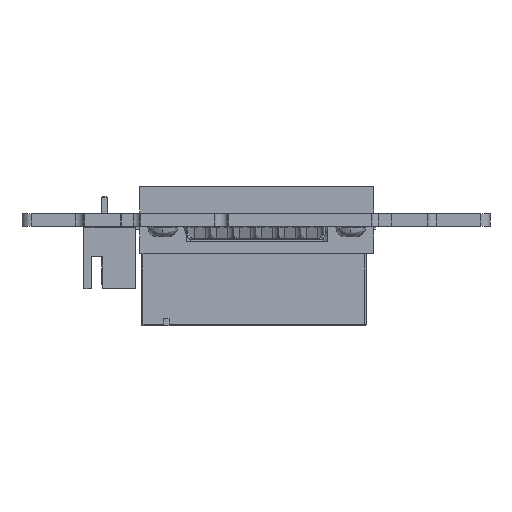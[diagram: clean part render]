
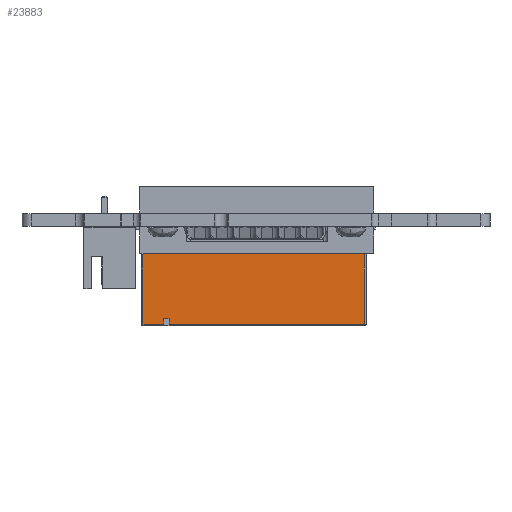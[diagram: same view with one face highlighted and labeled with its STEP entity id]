
A CAD part, front view. The second image highlights one B-rep face of the part: STEP entity #23883.
In plain terms, the highlighted planar face has unit normal (0, -1, 0) as drawn and (-1, 0, 0) by its records, which use the part's own axes.
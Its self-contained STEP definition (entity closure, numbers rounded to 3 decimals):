
#9178 = VERTEX_POINT('',#9179);
#9179 = CARTESIAN_POINT('',(-11.456,-4.524,10.6));
#9185 = EDGE_CURVE('',#9178,#9186,#9188,.T.);
#9186 = VERTEX_POINT('',#9187);
#9187 = CARTESIAN_POINT('',(-11.456,-4.524,-10.6));
#9188 = LINE('',#9189,#9190);
#9189 = CARTESIAN_POINT('',(-11.456,-4.524,12.5));
#9190 = VECTOR('',#9191,1.);
#9191 = DIRECTION('',(0.,0.,-1.));
#23104 = VERTEX_POINT('',#23105);
#23105 = CARTESIAN_POINT('',(-11.456,5.226,-12.3));
#23112 = EDGE_CURVE('',#23113,#23104,#23115,.T.);
#23113 = VERTEX_POINT('',#23114);
#23114 = CARTESIAN_POINT('',(-11.456,5.226,9.4));
#23115 = LINE('',#23116,#23117);
#23116 = CARTESIAN_POINT('',(-11.456,5.226,12.5));
#23117 = VECTOR('',#23118,1.);
#23118 = DIRECTION('',(0.,0.,-1.));
#23854 = EDGE_CURVE('',#23855,#23857,#23859,.T.);
#23855 = VERTEX_POINT('',#23856);
#23856 = CARTESIAN_POINT('',(-11.456,5.226,12.3));
#23857 = VERTEX_POINT('',#23858);
#23858 = CARTESIAN_POINT('',(-11.456,5.226,10.));
#23859 = LINE('',#23860,#23861);
#23860 = CARTESIAN_POINT('',(-11.456,5.226,12.5));
#23861 = VECTOR('',#23862,1.);
#23862 = DIRECTION('',(0.,0.,-1.));
#23883 = ADVANCED_FACE('',(#23884),#23955,.F.);
#23884 = FACE_BOUND('',#23885,.T.);
#23885 = EDGE_LOOP('',(#23886,#23896,#23902,#23903,#23911,#23919,#23925,
    #23926,#23934,#23942,#23948,#23949));
#23886 = ORIENTED_EDGE('',*,*,#23887,.F.);
#23887 = EDGE_CURVE('',#23888,#23890,#23892,.T.);
#23888 = VERTEX_POINT('',#23889);
#23889 = CARTESIAN_POINT('',(-11.456,-5.574,12.3));
#23890 = VERTEX_POINT('',#23891);
#23891 = CARTESIAN_POINT('',(-11.456,-5.574,10.6));
#23892 = LINE('',#23893,#23894);
#23893 = CARTESIAN_POINT('',(-11.456,-5.574,12.5));
#23894 = VECTOR('',#23895,1.);
#23895 = DIRECTION('',(0.,0.,-1.));
#23896 = ORIENTED_EDGE('',*,*,#23897,.T.);
#23897 = EDGE_CURVE('',#23888,#23855,#23898,.T.);
#23898 = LINE('',#23899,#23900);
#23899 = CARTESIAN_POINT('',(-11.456,-4.524,12.3));
#23900 = VECTOR('',#23901,1.);
#23901 = DIRECTION('',(0.,1.,0.));
#23902 = ORIENTED_EDGE('',*,*,#23854,.T.);
#23903 = ORIENTED_EDGE('',*,*,#23904,.F.);
#23904 = EDGE_CURVE('',#23905,#23857,#23907,.T.);
#23905 = VERTEX_POINT('',#23906);
#23906 = CARTESIAN_POINT('',(-11.456,4.626,10.));
#23907 = LINE('',#23908,#23909);
#23908 = CARTESIAN_POINT('',(-11.456,4.626,10.));
#23909 = VECTOR('',#23910,1.);
#23910 = DIRECTION('',(0.,1.,0.));
#23911 = ORIENTED_EDGE('',*,*,#23912,.F.);
#23912 = EDGE_CURVE('',#23913,#23905,#23915,.T.);
#23913 = VERTEX_POINT('',#23914);
#23914 = CARTESIAN_POINT('',(-11.456,4.626,9.4));
#23915 = LINE('',#23916,#23917);
#23916 = CARTESIAN_POINT('',(-11.456,4.626,9.4));
#23917 = VECTOR('',#23918,1.);
#23918 = DIRECTION('',(0.,0.,1.));
#23919 = ORIENTED_EDGE('',*,*,#23920,.T.);
#23920 = EDGE_CURVE('',#23913,#23113,#23921,.T.);
#23921 = LINE('',#23922,#23923);
#23922 = CARTESIAN_POINT('',(-11.456,4.626,9.4));
#23923 = VECTOR('',#23924,1.);
#23924 = DIRECTION('',(0.,1.,0.));
#23925 = ORIENTED_EDGE('',*,*,#23112,.T.);
#23926 = ORIENTED_EDGE('',*,*,#23927,.T.);
#23927 = EDGE_CURVE('',#23104,#23928,#23930,.T.);
#23928 = VERTEX_POINT('',#23929);
#23929 = CARTESIAN_POINT('',(-11.456,-5.574,-12.3));
#23930 = LINE('',#23931,#23932);
#23931 = CARTESIAN_POINT('',(-11.456,-5.574,-12.3));
#23932 = VECTOR('',#23933,1.);
#23933 = DIRECTION('',(0.,-1.,0.));
#23934 = ORIENTED_EDGE('',*,*,#23935,.F.);
#23935 = EDGE_CURVE('',#23936,#23928,#23938,.T.);
#23936 = VERTEX_POINT('',#23937);
#23937 = CARTESIAN_POINT('',(-11.456,-5.574,-10.6));
#23938 = LINE('',#23939,#23940);
#23939 = CARTESIAN_POINT('',(-11.456,-5.574,-12.5));
#23940 = VECTOR('',#23941,1.);
#23941 = DIRECTION('',(0.,0.,-1.));
#23942 = ORIENTED_EDGE('',*,*,#23943,.T.);
#23943 = EDGE_CURVE('',#23936,#9186,#23944,.T.);
#23944 = LINE('',#23945,#23946);
#23945 = CARTESIAN_POINT('',(-11.456,-5.574,-10.6));
#23946 = VECTOR('',#23947,1.);
#23947 = DIRECTION('',(0.,1.,0.));
#23948 = ORIENTED_EDGE('',*,*,#9185,.F.);
#23949 = ORIENTED_EDGE('',*,*,#23950,.F.);
#23950 = EDGE_CURVE('',#23890,#9178,#23951,.T.);
#23951 = LINE('',#23952,#23953);
#23952 = CARTESIAN_POINT('',(-11.456,-5.574,10.6));
#23953 = VECTOR('',#23954,1.);
#23954 = DIRECTION('',(0.,1.,0.));
#23955 = PLANE('',#23956);
#23956 = AXIS2_PLACEMENT_3D('',#23957,#23958,#23959);
#23957 = CARTESIAN_POINT('',(-11.456,-4.524,12.5));
#23958 = DIRECTION('',(1.,0.,0.));
#23959 = DIRECTION('',(0.,-1.,0.));
